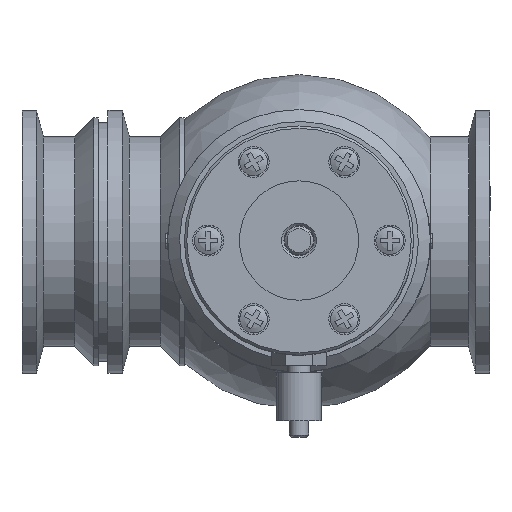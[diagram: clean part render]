
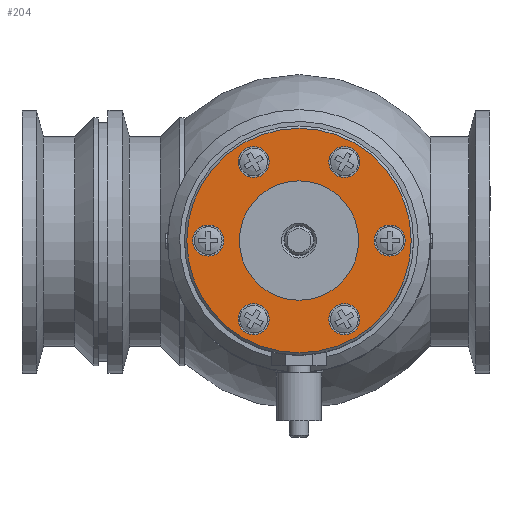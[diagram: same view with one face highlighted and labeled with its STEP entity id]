
A CAD part, top view. The second image highlights one B-rep face of the part: STEP entity #204.
In plain terms, the highlighted planar face has unit normal (0, 0, 1) as drawn and (0, 0, -1) by its records, which use the part's own axes.
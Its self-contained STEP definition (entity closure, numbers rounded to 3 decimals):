
#204 = ADVANCED_FACE( '', ( #378, #379, #380, #381, #382, #383, #384, #385 ), #386, .T. );
#378 = FACE_OUTER_BOUND( '', #572, .T. );
#379 = FACE_BOUND( '', #573, .T. );
#380 = FACE_BOUND( '', #574, .T. );
#381 = FACE_BOUND( '', #575, .T. );
#382 = FACE_BOUND( '', #576, .T. );
#383 = FACE_BOUND( '', #577, .T. );
#384 = FACE_BOUND( '', #578, .T. );
#385 = FACE_BOUND( '', #579, .T. );
#386 = PLANE( '', #580 );
#572 = EDGE_LOOP( '', ( #928 ) );
#573 = EDGE_LOOP( '', ( #929 ) );
#574 = EDGE_LOOP( '', ( #930 ) );
#575 = EDGE_LOOP( '', ( #931 ) );
#576 = EDGE_LOOP( '', ( #932 ) );
#577 = EDGE_LOOP( '', ( #933 ) );
#578 = EDGE_LOOP( '', ( #934 ) );
#579 = EDGE_LOOP( '', ( #935 ) );
#580 = AXIS2_PLACEMENT_3D( '', #936, #937, #938 );
#928 = ORIENTED_EDGE( '', *, *, #1357, .T. );
#929 = ORIENTED_EDGE( '', *, *, #1352, .T. );
#930 = ORIENTED_EDGE( '', *, *, #1349, .T. );
#931 = ORIENTED_EDGE( '', *, *, #1398, .T. );
#932 = ORIENTED_EDGE( '', *, *, #1375, .T. );
#933 = ORIENTED_EDGE( '', *, *, #1393, .T. );
#934 = ORIENTED_EDGE( '', *, *, #1362, .T. );
#935 = ORIENTED_EDGE( '', *, *, #1388, .T. );
#936 = CARTESIAN_POINT( '', ( 0., 0., 0. ) );
#937 = DIRECTION( '', ( 0., 0., -1. ) );
#938 = DIRECTION( '', ( -1., 0., 0. ) );
#1349 = EDGE_CURVE( '', #1803, #1803, #1804, .T. );
#1352 = EDGE_CURVE( '', #1808, #1808, #1809, .T. );
#1357 = EDGE_CURVE( '', #1816, #1816, #1817, .T. );
#1362 = EDGE_CURVE( '', #1824, #1824, #1825, .T. );
#1375 = EDGE_CURVE( '', #1845, #1845, #1846, .T. );
#1388 = EDGE_CURVE( '', #1866, #1866, #1867, .T. );
#1393 = EDGE_CURVE( '', #1873, #1873, #1874, .T. );
#1398 = EDGE_CURVE( '', #1880, #1880, #1881, .T. );
#1803 = VERTEX_POINT( '', #2681 );
#1804 = CIRCLE( '', #2682, 3.25 );
#1808 = VERTEX_POINT( '', #2686 );
#1809 = CIRCLE( '', #2687, 3.25 );
#1816 = VERTEX_POINT( '', #2694 );
#1817 = CIRCLE( '', #2695, 23.5 );
#1824 = VERTEX_POINT( '', #2702 );
#1825 = CIRCLE( '', #2703, 3.25 );
#1845 = VERTEX_POINT( '', #2723 );
#1846 = CIRCLE( '', #2724, 3.25 );
#1866 = VERTEX_POINT( '', #2744 );
#1867 = CIRCLE( '', #2745, 12.5 );
#1873 = VERTEX_POINT( '', #2751 );
#1874 = CIRCLE( '', #2752, 3.25 );
#1880 = VERTEX_POINT( '', #2758 );
#1881 = CIRCLE( '', #2759, 3.25 );
#2681 = CARTESIAN_POINT( '', ( -9.5, -13.204, 0. ) );
#2682 = AXIS2_PLACEMENT_3D( '', #2961, #2962, #2963 );
#2686 = CARTESIAN_POINT( '', ( 9.5, -13.204, 0. ) );
#2687 = AXIS2_PLACEMENT_3D( '', #2967, #2968, #2969 );
#2694 = CARTESIAN_POINT( '', ( -23.5, 0., 0. ) );
#2695 = AXIS2_PLACEMENT_3D( '', #2976, #2977, #2978 );
#2702 = CARTESIAN_POINT( '', ( 19., 3.25, 0. ) );
#2703 = AXIS2_PLACEMENT_3D( '', #2985, #2986, #2987 );
#2723 = CARTESIAN_POINT( '', ( -9.5, 19.704, 0. ) );
#2724 = AXIS2_PLACEMENT_3D( '', #3009, #3010, #3011 );
#2744 = CARTESIAN_POINT( '', ( 0., 12.5, 0. ) );
#2745 = AXIS2_PLACEMENT_3D( '', #3033, #3034, #3035 );
#2751 = CARTESIAN_POINT( '', ( 9.5, 19.704, 0. ) );
#2752 = AXIS2_PLACEMENT_3D( '', #3039, #3040, #3041 );
#2758 = CARTESIAN_POINT( '', ( -19., 3.25, 0. ) );
#2759 = AXIS2_PLACEMENT_3D( '', #3045, #3046, #3047 );
#2961 = CARTESIAN_POINT( '', ( -9.5, -16.454, 0. ) );
#2962 = DIRECTION( '', ( 0., 0., 1. ) );
#2963 = DIRECTION( '', ( 0., 1., 0. ) );
#2967 = CARTESIAN_POINT( '', ( 9.5, -16.454, 0. ) );
#2968 = DIRECTION( '', ( 0., 0., 1. ) );
#2969 = DIRECTION( '', ( 0., 1., 0. ) );
#2976 = CARTESIAN_POINT( '', ( 0., 0., 0. ) );
#2977 = DIRECTION( '', ( 0., 0., -1. ) );
#2978 = DIRECTION( '', ( -1., 0., 0. ) );
#2985 = CARTESIAN_POINT( '', ( 19., 0., 0. ) );
#2986 = DIRECTION( '', ( 0., 0., 1. ) );
#2987 = DIRECTION( '', ( 0., 1., 0. ) );
#3009 = CARTESIAN_POINT( '', ( -9.5, 16.454, 0. ) );
#3010 = DIRECTION( '', ( 0., 0., 1. ) );
#3011 = DIRECTION( '', ( 0., 1., 0. ) );
#3033 = CARTESIAN_POINT( '', ( 0., 0., 0. ) );
#3034 = DIRECTION( '', ( 0., 0., 1. ) );
#3035 = DIRECTION( '', ( 0., 1., 0. ) );
#3039 = CARTESIAN_POINT( '', ( 9.5, 16.454, 0. ) );
#3040 = DIRECTION( '', ( 0., 0., 1. ) );
#3041 = DIRECTION( '', ( 0., 1., 0. ) );
#3045 = CARTESIAN_POINT( '', ( -19., 0., 0. ) );
#3046 = DIRECTION( '', ( 0., 0., 1. ) );
#3047 = DIRECTION( '', ( 0., 1., 0. ) );
